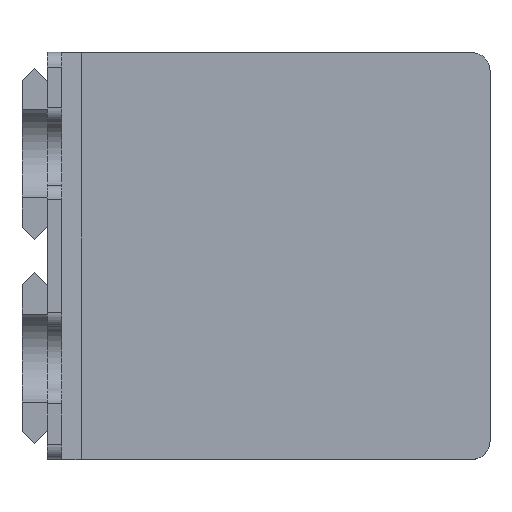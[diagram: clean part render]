
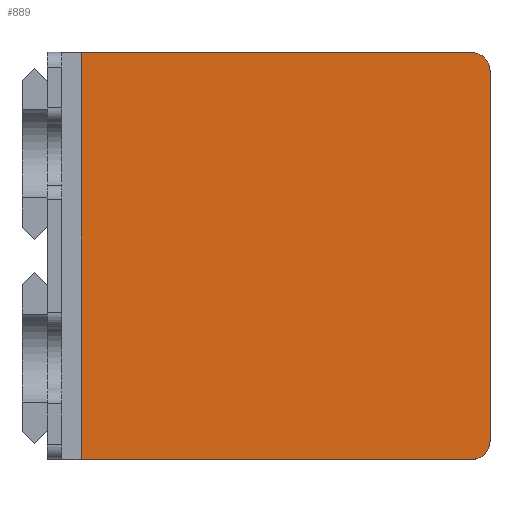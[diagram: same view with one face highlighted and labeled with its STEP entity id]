
A CAD part, top view. The second image highlights one B-rep face of the part: STEP entity #889.
In plain terms, the highlighted planar face has unit normal (0, 0, 1).
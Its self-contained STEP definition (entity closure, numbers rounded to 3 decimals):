
#29=CIRCLE('',#953,3.75);
#30=CIRCLE('',#954,3.75);
#59=FACE_OUTER_BOUND('',#108,.T.);
#108=EDGE_LOOP('',(#615,#616,#617,#618,#619,#620));
#168=LINE('',#1308,#275);
#174=LINE('',#1320,#281);
#176=LINE('',#1324,#283);
#177=LINE('',#1328,#284);
#275=VECTOR('',#1044,10.);
#281=VECTOR('',#1054,10.);
#283=VECTOR('',#1058,10.);
#284=VECTOR('',#1061,10.);
#379=VERTEX_POINT('',#1305);
#380=VERTEX_POINT('',#1307);
#384=VERTEX_POINT('',#1318);
#385=VERTEX_POINT('',#1323);
#386=VERTEX_POINT('',#1325);
#387=VERTEX_POINT('',#1327);
#468=EDGE_CURVE('',#380,#379,#168,.T.);
#474=EDGE_CURVE('',#384,#379,#174,.T.);
#476=EDGE_CURVE('',#385,#384,#176,.T.);
#477=EDGE_CURVE('',#386,#385,#29,.T.);
#478=EDGE_CURVE('',#387,#386,#177,.T.);
#479=EDGE_CURVE('',#380,#387,#30,.T.);
#615=ORIENTED_EDGE('',*,*,#474,.F.);
#616=ORIENTED_EDGE('',*,*,#476,.F.);
#617=ORIENTED_EDGE('',*,*,#477,.F.);
#618=ORIENTED_EDGE('',*,*,#478,.F.);
#619=ORIENTED_EDGE('',*,*,#479,.F.);
#620=ORIENTED_EDGE('',*,*,#468,.T.);
#852=PLANE('',#952);
#889=ADVANCED_FACE('',(#59),#852,.F.);
#952=AXIS2_PLACEMENT_3D('',#1322,#1056,#1057);
#953=AXIS2_PLACEMENT_3D('',#1326,#1059,#1060);
#954=AXIS2_PLACEMENT_3D('',#1329,#1062,#1063);
#1044=DIRECTION('',(-1.,0.,0.));
#1054=DIRECTION('',(0.,1.,0.));
#1056=DIRECTION('center_axis',(0.,0.,-1.));
#1057=DIRECTION('ref_axis',(1.,0.,0.));
#1058=DIRECTION('',(-1.,0.,0.));
#1059=DIRECTION('center_axis',(0.,0.,-1.));
#1060=DIRECTION('ref_axis',(0.707,-0.707,0.));
#1061=DIRECTION('',(0.,-1.,0.));
#1062=DIRECTION('center_axis',(0.,0.,-1.));
#1063=DIRECTION('ref_axis',(0.707,0.707,0.));
#1305=CARTESIAN_POINT('',(103.15,62.8,-167.478));
#1307=CARTESIAN_POINT('',(183.4,62.8,-167.478));
#1308=CARTESIAN_POINT('',(122.15,62.8,-167.478));
#1318=CARTESIAN_POINT('',(103.15,-20.8,-167.478));
#1320=CARTESIAN_POINT('',(103.15,10.5,-167.478));
#1322=CARTESIAN_POINT('Origin',(122.15,21.,-167.478));
#1323=CARTESIAN_POINT('',(183.4,-20.8,-167.478));
#1324=CARTESIAN_POINT('',(122.15,-20.8,-167.478));
#1325=CARTESIAN_POINT('',(187.15,-17.05,-167.478));
#1326=CARTESIAN_POINT('Origin',(183.4,-17.05,-167.478));
#1327=CARTESIAN_POINT('',(187.15,59.05,-167.478));
#1328=CARTESIAN_POINT('',(187.15,21.,-167.478));
#1329=CARTESIAN_POINT('Origin',(183.4,59.05,-167.478));
